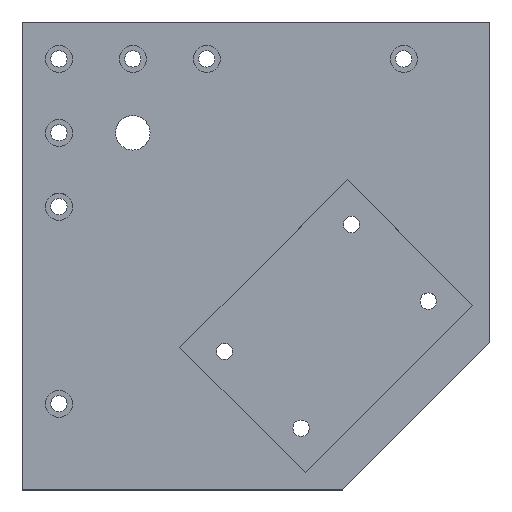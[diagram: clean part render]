
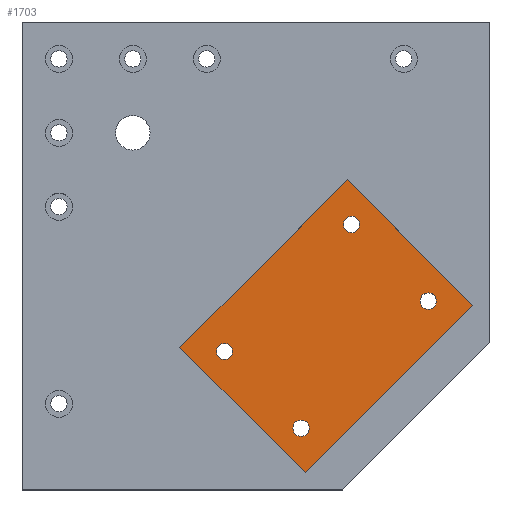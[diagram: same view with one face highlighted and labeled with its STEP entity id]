
A CAD part, top view. The second image highlights one B-rep face of the part: STEP entity #1703.
In plain terms, the highlighted planar face has unit normal (0, 0, 1).
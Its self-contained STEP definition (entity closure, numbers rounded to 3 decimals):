
#12 = ORIENTED_EDGE ( 'NONE', *, *, #1775, .T. ) ;
#31 = DIRECTION ( 'NONE',  ( 0., 0., 1. ) ) ;
#45 = ORIENTED_EDGE ( 'NONE', *, *, #1048, .F. ) ;
#85 = VERTEX_POINT ( 'NONE', #1482 ) ;
#119 = CARTESIAN_POINT ( 'NONE',  ( 21.626, -69.922, 3.5 ) ) ;
#138 = EDGE_CURVE ( 'NONE', #1108, #1174, #1817, .T. ) ;
#145 = CIRCLE ( 'NONE', #685, 3.323 ) ;
#181 = AXIS2_PLACEMENT_3D ( 'NONE', #1178, #632, #458 ) ;
#194 = CARTESIAN_POINT ( 'NONE',  ( 66.598, -18.303, 3.5 ) ) ;
#199 = EDGE_LOOP ( 'NONE', ( #1288, #233 ) ) ;
#233 = ORIENTED_EDGE ( 'NONE', *, *, #1056, .F. ) ;
#237 = DIRECTION ( 'NONE',  ( 0., 0., 1. ) ) ;
#240 = DIRECTION ( 'NONE',  ( 0.707, 0.707, 0. ) ) ;
#247 = AXIS2_PLACEMENT_3D ( 'NONE', #1070, #459, #1436 ) ;
#251 = EDGE_CURVE ( 'NONE', #311, #1456, #336, .T. ) ;
#294 = VECTOR ( 'NONE', #1626, 1000. ) ;
#301 = LINE ( 'NONE', #797, #1324 ) ;
#307 = VERTEX_POINT ( 'NONE', #538 ) ;
#311 = VERTEX_POINT ( 'NONE', #480 ) ;
#313 = DIRECTION ( 'NONE',  ( 0., 0., 1. ) ) ;
#336 = CIRCLE ( 'NONE', #840, 3.323 ) ;
#375 = ORIENTED_EDGE ( 'NONE', *, *, #402, .T. ) ;
#379 = FACE_BOUND ( 'NONE', #832, .T. ) ;
#402 = EDGE_CURVE ( 'NONE', #782, #1108, #301, .T. ) ;
#422 = CARTESIAN_POINT ( 'NONE',  ( -12.81, -38.809, 3.5 ) ) ;
#445 = VECTOR ( 'NONE', #240, 1000. ) ;
#458 = DIRECTION ( 'NONE',  ( 1., 0., 0. ) ) ;
#459 = DIRECTION ( 'NONE',  ( 0., 0., 1. ) ) ;
#480 = CARTESIAN_POINT ( 'NONE',  ( 14.979, -69.922, 3.5 ) ) ;
#492 = EDGE_CURVE ( 'NONE', #307, #85, #1700, .T. ) ;
#497 = FACE_BOUND ( 'NONE', #199, .T. ) ;
#504 = CARTESIAN_POINT ( 'NONE',  ( 69.922, -18.303, 3.5 ) ) ;
#510 = LINE ( 'NONE', #1524, #1306 ) ;
#515 = CARTESIAN_POINT ( 'NONE',  ( -12.81, -38.809, 3.5 ) ) ;
#534 = CIRCLE ( 'NONE', #775, 3.323 ) ;
#538 = CARTESIAN_POINT ( 'NONE',  ( -16.133, -38.809, 3.5 ) ) ;
#539 = PLANE ( 'NONE',  #630 ) ;
#570 = DIRECTION ( 'NONE',  ( 1., 0., 0. ) ) ;
#577 = ORIENTED_EDGE ( 'NONE', *, *, #825, .F. ) ;
#599 = DIRECTION ( 'NONE',  ( 1., 0., 0. ) ) ;
#616 = ORIENTED_EDGE ( 'NONE', *, *, #138, .T. ) ;
#630 = AXIS2_PLACEMENT_3D ( 'NONE', #669, #955, #1652 ) ;
#632 = DIRECTION ( 'NONE',  ( 0., 0., 1. ) ) ;
#648 = ORIENTED_EDGE ( 'NONE', *, *, #492, .F. ) ;
#652 = CARTESIAN_POINT ( 'NONE',  ( -30.912, -37.112, 3.5 ) ) ;
#669 = CARTESIAN_POINT ( 'NONE',  ( 0., 0., 3.5 ) ) ;
#678 = FACE_BOUND ( 'NONE', #714, .T. ) ;
#683 = FACE_BOUND ( 'NONE', #1267, .T. ) ;
#685 = AXIS2_PLACEMENT_3D ( 'NONE', #515, #237, #1085 ) ;
#694 = DIRECTION ( 'NONE',  ( 0., 0., 1. ) ) ;
#714 = EDGE_LOOP ( 'NONE', ( #45, #1648 ) ) ;
#728 = VERTEX_POINT ( 'NONE', #1525 ) ;
#754 = AXIS2_PLACEMENT_3D ( 'NONE', #504, #31, #1645 ) ;
#756 = ORIENTED_EDGE ( 'NONE', *, *, #1104, .F. ) ;
#775 = AXIS2_PLACEMENT_3D ( 'NONE', #1234, #1067, #1377 ) ;
#782 = VERTEX_POINT ( 'NONE', #652 ) ;
#785 = CIRCLE ( 'NONE', #181, 3.323 ) ;
#797 = CARTESIAN_POINT ( 'NONE',  ( -30.912, -37.112, 3.5 ) ) ;
#804 = DIRECTION ( 'NONE',  ( -0.707, 0.707, 0. ) ) ;
#825 = EDGE_CURVE ( 'NONE', #1374, #728, #1043, .T. ) ;
#832 = EDGE_LOOP ( 'NONE', ( #648, #1606 ) ) ;
#840 = AXIS2_PLACEMENT_3D ( 'NONE', #1314, #1717, #570 ) ;
#874 = DIRECTION ( 'NONE',  ( 0.707, -0.707, 0. ) ) ;
#909 = AXIS2_PLACEMENT_3D ( 'NONE', #422, #694, #1856 ) ;
#932 = AXIS2_PLACEMENT_3D ( 'NONE', #1308, #313, #599 ) ;
#955 = DIRECTION ( 'NONE',  ( 0., 0., 1. ) ) ;
#1041 = CARTESIAN_POINT ( 'NONE',  ( 37.112, 30.912, 3.5 ) ) ;
#1043 = CIRCLE ( 'NONE', #247, 3.323 ) ;
#1048 = EDGE_CURVE ( 'NONE', #1594, #1592, #1728, .T. ) ;
#1056 = EDGE_CURVE ( 'NONE', #1456, #311, #785, .T. ) ;
#1067 = DIRECTION ( 'NONE',  ( 0., 0., 1. ) ) ;
#1070 = CARTESIAN_POINT ( 'NONE',  ( 38.809, 12.81, 3.5 ) ) ;
#1072 = EDGE_CURVE ( 'NONE', #1708, #782, #1339, .T. ) ;
#1085 = DIRECTION ( 'NONE',  ( 1., 0., 0. ) ) ;
#1104 = EDGE_CURVE ( 'NONE', #728, #1374, #1501, .T. ) ;
#1108 = VERTEX_POINT ( 'NONE', #1167 ) ;
#1167 = CARTESIAN_POINT ( 'NONE',  ( 20., -88.024, 3.5 ) ) ;
#1174 = VERTEX_POINT ( 'NONE', #1694 ) ;
#1178 = CARTESIAN_POINT ( 'NONE',  ( 18.303, -69.922, 3.5 ) ) ;
#1234 = CARTESIAN_POINT ( 'NONE',  ( 69.922, -18.303, 3.5 ) ) ;
#1267 = EDGE_LOOP ( 'NONE', ( #756, #577 ) ) ;
#1288 = ORIENTED_EDGE ( 'NONE', *, *, #251, .F. ) ;
#1306 = VECTOR ( 'NONE', #804, 1000. ) ;
#1308 = CARTESIAN_POINT ( 'NONE',  ( 38.809, 12.81, 3.5 ) ) ;
#1314 = CARTESIAN_POINT ( 'NONE',  ( 18.303, -69.922, 3.5 ) ) ;
#1324 = VECTOR ( 'NONE', #874, 1000. ) ;
#1339 = LINE ( 'NONE', #1041, #294 ) ;
#1354 = CARTESIAN_POINT ( 'NONE',  ( 73.245, -18.303, 3.5 ) ) ;
#1366 = CARTESIAN_POINT ( 'NONE',  ( 42.133, 12.81, 3.5 ) ) ;
#1374 = VERTEX_POINT ( 'NONE', #1366 ) ;
#1377 = DIRECTION ( 'NONE',  ( 1., 0., 0. ) ) ;
#1397 = CARTESIAN_POINT ( 'NONE',  ( 20., -88.024, 3.5 ) ) ;
#1433 = EDGE_CURVE ( 'NONE', #85, #307, #145, .T. ) ;
#1436 = DIRECTION ( 'NONE',  ( 1., 0., 0. ) ) ;
#1456 = VERTEX_POINT ( 'NONE', #119 ) ;
#1482 = CARTESIAN_POINT ( 'NONE',  ( -9.486, -38.809, 3.5 ) ) ;
#1501 = CIRCLE ( 'NONE', #932, 3.323 ) ;
#1524 = CARTESIAN_POINT ( 'NONE',  ( 88.024, -20., 3.5 ) ) ;
#1525 = CARTESIAN_POINT ( 'NONE',  ( 35.486, 12.81, 3.5 ) ) ;
#1571 = ORIENTED_EDGE ( 'NONE', *, *, #1072, .T. ) ;
#1592 = VERTEX_POINT ( 'NONE', #1354 ) ;
#1594 = VERTEX_POINT ( 'NONE', #194 ) ;
#1606 = ORIENTED_EDGE ( 'NONE', *, *, #1433, .F. ) ;
#1607 = EDGE_LOOP ( 'NONE', ( #12, #1571, #375, #616 ) ) ;
#1626 = DIRECTION ( 'NONE',  ( -0.707, -0.707, 0. ) ) ;
#1645 = DIRECTION ( 'NONE',  ( 1., 0., 0. ) ) ;
#1648 = ORIENTED_EDGE ( 'NONE', *, *, #1740, .F. ) ;
#1652 = DIRECTION ( 'NONE',  ( 1., 0., 0. ) ) ;
#1669 = FACE_OUTER_BOUND ( 'NONE', #1607, .T. ) ;
#1694 = CARTESIAN_POINT ( 'NONE',  ( 88.024, -20., 3.5 ) ) ;
#1700 = CIRCLE ( 'NONE', #909, 3.323 ) ;
#1703 = ADVANCED_FACE ( 'NONE', ( #497, #379, #678, #683, #1669 ), #539, .T. ) ;
#1708 = VERTEX_POINT ( 'NONE', #1796 ) ;
#1717 = DIRECTION ( 'NONE',  ( 0., 0., 1. ) ) ;
#1728 = CIRCLE ( 'NONE', #754, 3.323 ) ;
#1740 = EDGE_CURVE ( 'NONE', #1592, #1594, #534, .T. ) ;
#1775 = EDGE_CURVE ( 'NONE', #1174, #1708, #510, .T. ) ;
#1796 = CARTESIAN_POINT ( 'NONE',  ( 37.112, 30.912, 3.5 ) ) ;
#1817 = LINE ( 'NONE', #1397, #445 ) ;
#1856 = DIRECTION ( 'NONE',  ( 1., 0., 0. ) ) ;
